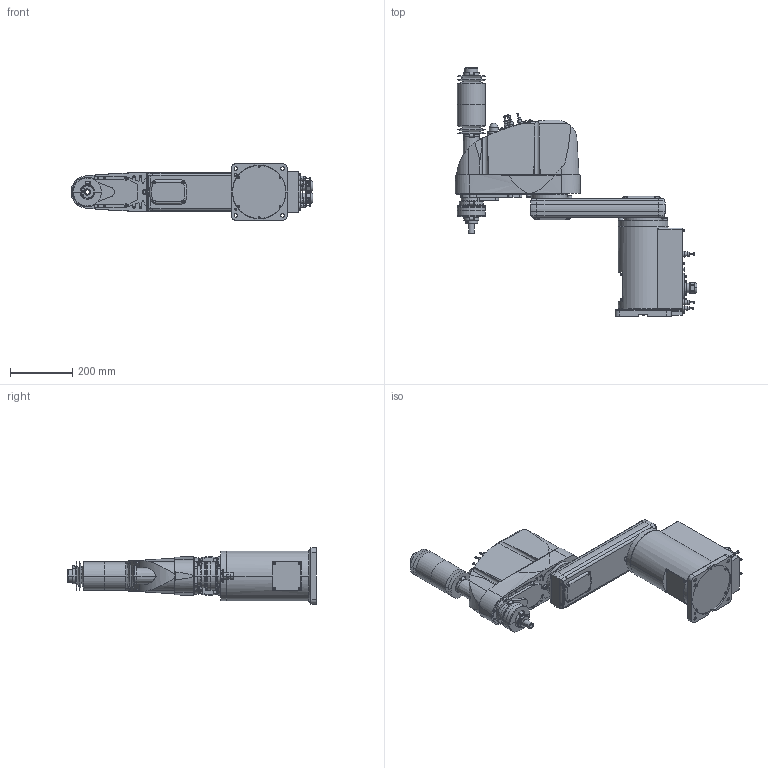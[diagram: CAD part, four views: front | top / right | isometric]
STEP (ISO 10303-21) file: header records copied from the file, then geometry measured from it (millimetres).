
FILE_DESCRIPTION( ( '' ), '1' );
FILE_NAME( '//expscmdclustefs.cadenas.external/client_exchange/iodir/jobs/output/wkb51534846_no0/STEP/G6_551D_2_03.stp', '2012-11-23T09:08:53', ( '' ), ( '' ), ' ', ' ', ' ' );
FILE_SCHEMA( ( 'CONFIG_CONTROL_DESIGN' ) );
Length unit declared in the file: millimetre
Products named in the file (8): 1; 2; 3; 4; 5; 6; 7; 8
Bounding box: 774 x 795.5 x 180 mm (x, y, z)
Volume: 21571372.7 mm3; surface area: 1085395.8 mm2
Topology: 8 solids, 8 shells, 1811 faces, 4351 edges, 2767 vertices
Faces by surface type: plane 860, cylinder 628, cone 282, torus 40, sphere 1
Entity records: 56340 total; most frequent: CARTESIAN_POINT 12922, DIRECTION 9320, ORIENTED_EDGE 8642, EDGE_CURVE 4321, AXIS2_PLACEMENT_3D 3399, VERTEX_POINT 2767, LINE 2522, VECTOR 2522
